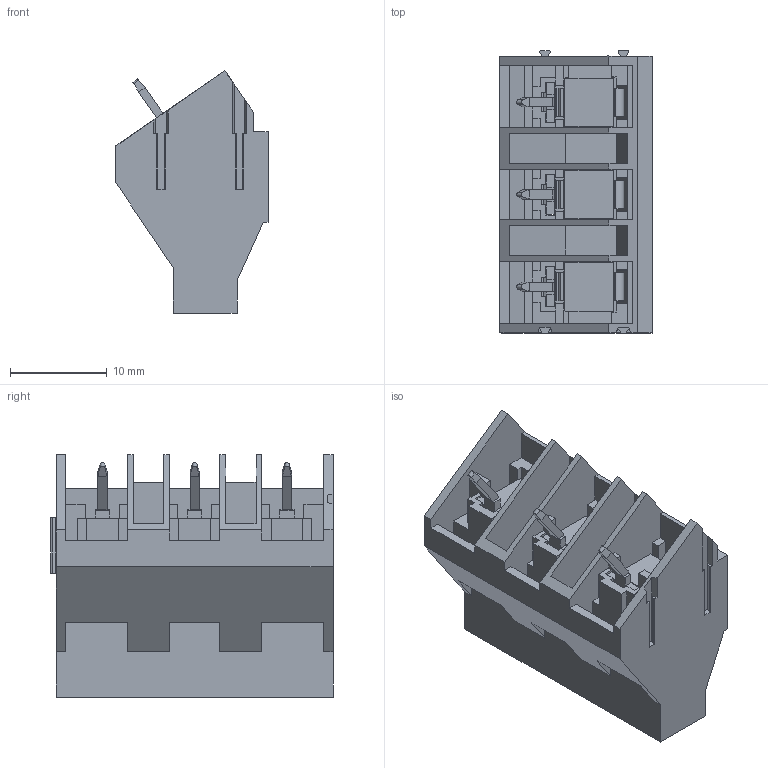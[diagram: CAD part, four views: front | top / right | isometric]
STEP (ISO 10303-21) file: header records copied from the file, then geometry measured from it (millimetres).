
FILE_DESCRIPTION((''),'2;1');
FILE_NAME('PRT0001','2021-05-07T',('guoxue_sz'),(''),'CREO PARAMETRIC BY PTC INC, 2016260','CREO PARAMETRIC BY PTC INC, 2016260','');
FILE_SCHEMA(('CONFIG_CONTROL_DESIGN'));
Products named in the file (1): PRT0001
Bounding box: 15.7 x 29.11 x 25 mm (x, y, z)
Volume: 3217.3 mm3; surface area: 7657.1 mm2
Topology: 4 solids, 4 shells, 905 faces, 2482 edges, 1621 vertices
Faces by surface type: plane 553, bspline 171, cylinder 136, cone 33, torus 12
Entity records: 49215 total; most frequent: CARTESIAN_POINT 27609, ORIENTED_EDGE 4940, DIRECTION 3619, EDGE_CURVE 2470, VECTOR 1661, LINE 1661, VERTEX_POINT 1615, EDGE_LOOP 1001
